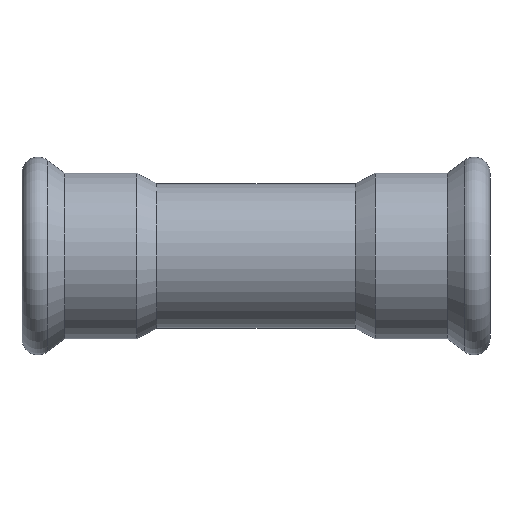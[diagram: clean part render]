
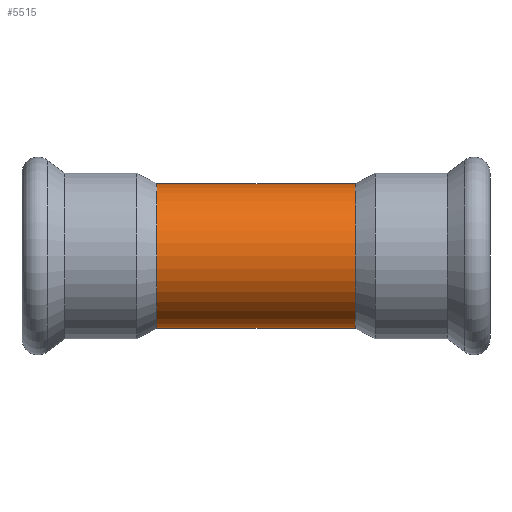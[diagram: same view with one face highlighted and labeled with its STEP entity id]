
A CAD part, front view. The second image highlights one B-rep face of the part: STEP entity #5515.
In plain terms, the highlighted cylindrical face has radius 13.6 mm (diameter 27.2 mm), a partial arc.
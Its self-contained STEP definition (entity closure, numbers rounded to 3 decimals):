
#43 = EDGE_CURVE ( 'NONE', #2689, #755, #4443, .T. ) ;
#54 = VECTOR ( 'NONE', #5512, 1000. ) ;
#147 = ORIENTED_EDGE ( 'NONE', *, *, #43, .T. ) ;
#448 = LINE ( 'NONE', #547, #3975 ) ;
#458 = CARTESIAN_POINT ( 'NONE',  ( 18.626, 0., 0. ) ) ;
#547 = CARTESIAN_POINT ( 'NONE',  ( 0., 0., -13.6 ) ) ;
#638 = CYLINDRICAL_SURFACE ( 'NONE', #6074, 13.6 ) ;
#648 = CARTESIAN_POINT ( 'NONE',  ( -18.626, 0., -13.6 ) ) ;
#674 = ORIENTED_EDGE ( 'NONE', *, *, #6059, .T. ) ;
#676 = EDGE_CURVE ( 'NONE', #3171, #755, #4793, .T. ) ;
#682 = DIRECTION ( 'NONE',  ( -1., 0., 0. ) ) ;
#704 = AXIS2_PLACEMENT_3D ( 'NONE', #458, #1600, #4724 ) ;
#755 = VERTEX_POINT ( 'NONE', #6560 ) ;
#1037 = CIRCLE ( 'NONE', #704, 13.6 ) ;
#1276 = DIRECTION ( 'NONE',  ( 0., 0., 1. ) ) ;
#1291 = CARTESIAN_POINT ( 'NONE',  ( 0., 0., 13.6 ) ) ;
#1600 = DIRECTION ( 'NONE',  ( -1., 0., 0. ) ) ;
#2684 = AXIS2_PLACEMENT_3D ( 'NONE', #2798, #682, #4293 ) ;
#2689 = VERTEX_POINT ( 'NONE', #5186 ) ;
#2790 = FACE_OUTER_BOUND ( 'NONE', #4046, .T. ) ;
#2798 = CARTESIAN_POINT ( 'NONE',  ( -18.626, 0., 0. ) ) ;
#2831 = DIRECTION ( 'NONE',  ( -1., 0., 0. ) ) ;
#3048 = ORIENTED_EDGE ( 'NONE', *, *, #676, .F. ) ;
#3171 = VERTEX_POINT ( 'NONE', #648 ) ;
#3266 = VERTEX_POINT ( 'NONE', #6012 ) ;
#3975 = VECTOR ( 'NONE', #6761, 1000. ) ;
#4046 = EDGE_LOOP ( 'NONE', ( #4993, #674, #147, #3048 ) ) ;
#4293 = DIRECTION ( 'NONE',  ( 0., 0., 1. ) ) ;
#4443 = LINE ( 'NONE', #1291, #54 ) ;
#4724 = DIRECTION ( 'NONE',  ( 0., 0., 1. ) ) ;
#4793 = CIRCLE ( 'NONE', #2684, 13.6 ) ;
#4993 = ORIENTED_EDGE ( 'NONE', *, *, #5101, .F. ) ;
#5101 = EDGE_CURVE ( 'NONE', #3266, #3171, #448, .T. ) ;
#5186 = CARTESIAN_POINT ( 'NONE',  ( 18.626, 0., 13.6 ) ) ;
#5512 = DIRECTION ( 'NONE',  ( -1., 0., 0. ) ) ;
#5515 = ADVANCED_FACE ( 'NONE', ( #2790 ), #638, .T. ) ;
#6004 = CARTESIAN_POINT ( 'NONE',  ( 0., 0., 0. ) ) ;
#6012 = CARTESIAN_POINT ( 'NONE',  ( 18.626, 0., -13.6 ) ) ;
#6059 = EDGE_CURVE ( 'NONE', #3266, #2689, #1037, .T. ) ;
#6074 = AXIS2_PLACEMENT_3D ( 'NONE', #6004, #2831, #1276 ) ;
#6560 = CARTESIAN_POINT ( 'NONE',  ( -18.626, 0., 13.6 ) ) ;
#6761 = DIRECTION ( 'NONE',  ( -1., 0., 0. ) ) ;
